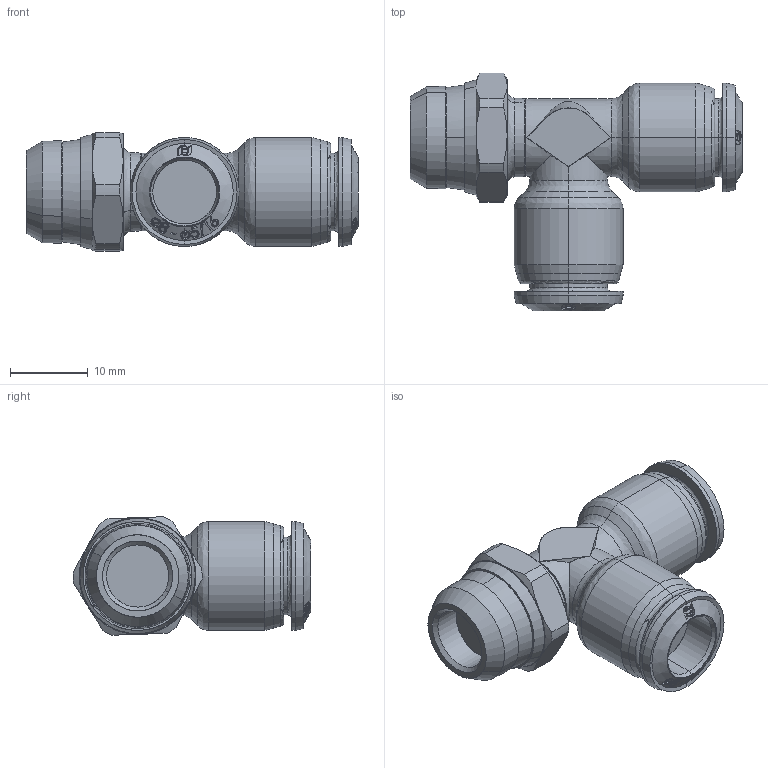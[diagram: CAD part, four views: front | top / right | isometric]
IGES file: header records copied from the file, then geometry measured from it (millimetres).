
Start section: SolidWorks IGES file using analytic representation for surfaces
Global section: file name: K:\Disegni Esecutivi\Serie 55000\ASSIEMI_55000\55223\ASSIEMI_PIENI_55223\5522300009.IGS; native system: SolidWorks 2007; preprocessor: SolidWorks 2007; author: cad02; date: 071126.143834; units: millimetre
Bounding box: 42.7 x 30.6 x 15.23 mm (x, y, z)
Surface area: 3667.8 mm2 (no closed solid volume)
Topology: 0 solids, 0 shells, 427 faces, 4702 edges, 4696 vertices
Faces by surface type: bspline 286, revolution 141
